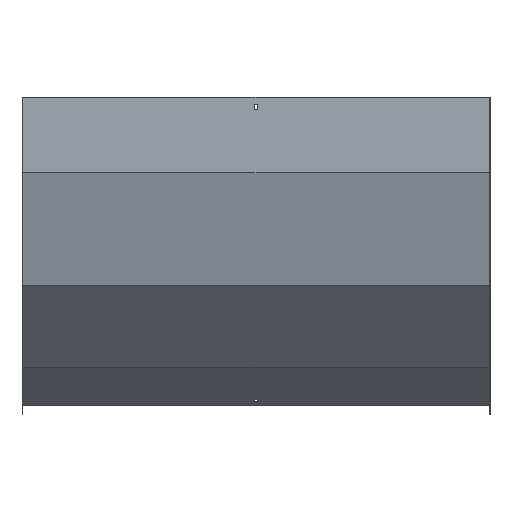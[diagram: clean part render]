
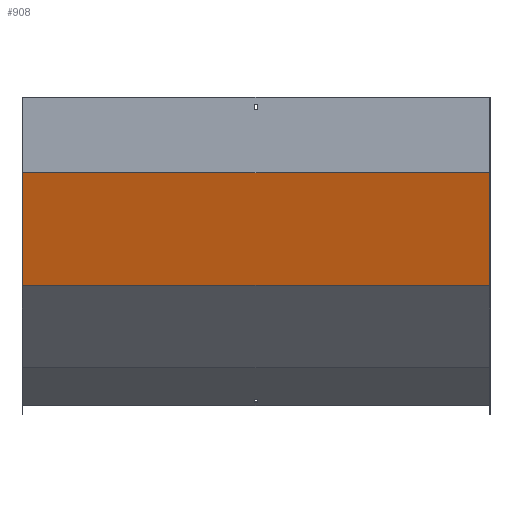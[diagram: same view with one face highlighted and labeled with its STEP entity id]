
A CAD part, front view. The second image highlights one B-rep face of the part: STEP entity #908.
In plain terms, the highlighted planar face has unit normal (0, -0.966, -0.259).
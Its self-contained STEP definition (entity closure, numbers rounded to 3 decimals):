
#14 = VERTEX_POINT ( 'NONE', #669 ) ;
#36 = CARTESIAN_POINT ( 'NONE',  ( 401.5, 50.16, -322.996 ) ) ;
#69 = VECTOR ( 'NONE', #581, 1000. ) ;
#76 = CARTESIAN_POINT ( 'NONE',  ( 400., -33.949, -9.097 ) ) ;
#126 = CARTESIAN_POINT ( 'NONE',  ( -400., -1.5, -130.197 ) ) ;
#145 = LINE ( 'NONE', #76, #799 ) ;
#189 = VERTEX_POINT ( 'NONE', #126 ) ;
#190 = DIRECTION ( 'NONE',  ( 0., -0.259, 0.966 ) ) ;
#192 = ORIENTED_EDGE ( 'NONE', *, *, #957, .T. ) ;
#211 = CARTESIAN_POINT ( 'NONE',  ( 400., -1.5, -130.197 ) ) ;
#233 = EDGE_CURVE ( 'NONE', #694, #14, #145, .T. ) ;
#242 = CARTESIAN_POINT ( 'NONE',  ( -400., -33.949, -9.097 ) ) ;
#250 = AXIS2_PLACEMENT_3D ( 'NONE', #497, #323, #190 ) ;
#257 = EDGE_CURVE ( 'NONE', #189, #935, #404, .T. ) ;
#271 = VECTOR ( 'NONE', #613, 1000. ) ;
#272 = LINE ( 'NONE', #969, #69 ) ;
#305 = ORIENTED_EDGE ( 'NONE', *, *, #233, .F. ) ;
#323 = DIRECTION ( 'NONE',  ( 0., 0.966, 0.259 ) ) ;
#338 = DIRECTION ( 'NONE',  ( -1., 0., 0. ) ) ;
#404 = LINE ( 'NONE', #242, #271 ) ;
#457 = DIRECTION ( 'NONE',  ( 0., 0.259, -0.966 ) ) ;
#481 = ORIENTED_EDGE ( 'NONE', *, *, #257, .T. ) ;
#497 = CARTESIAN_POINT ( 'NONE',  ( 401.5, -1.449, -130.388 ) ) ;
#581 = DIRECTION ( 'NONE',  ( -1., 0., 0. ) ) ;
#613 = DIRECTION ( 'NONE',  ( 0., 0.259, -0.966 ) ) ;
#669 = CARTESIAN_POINT ( 'NONE',  ( 400., 50.16, -322.996 ) ) ;
#694 = VERTEX_POINT ( 'NONE', #211 ) ;
#713 = FACE_OUTER_BOUND ( 'NONE', #934, .T. ) ;
#720 = VECTOR ( 'NONE', #338, 1000. ) ;
#723 = LINE ( 'NONE', #36, #720 ) ;
#796 = PLANE ( 'NONE',  #250 ) ;
#799 = VECTOR ( 'NONE', #457, 1000. ) ;
#863 = ORIENTED_EDGE ( 'NONE', *, *, #918, .F. ) ;
#908 = ADVANCED_FACE ( 'NONE', ( #713 ), #796, .F. ) ;
#918 = EDGE_CURVE ( 'NONE', #14, #935, #723, .T. ) ;
#934 = EDGE_LOOP ( 'NONE', ( #481, #863, #305, #192 ) ) ;
#935 = VERTEX_POINT ( 'NONE', #979 ) ;
#957 = EDGE_CURVE ( 'NONE', #694, #189, #272, .T. ) ;
#969 = CARTESIAN_POINT ( 'NONE',  ( 401.5, -1.5, -130.197 ) ) ;
#979 = CARTESIAN_POINT ( 'NONE',  ( -400., 50.16, -322.996 ) ) ;
